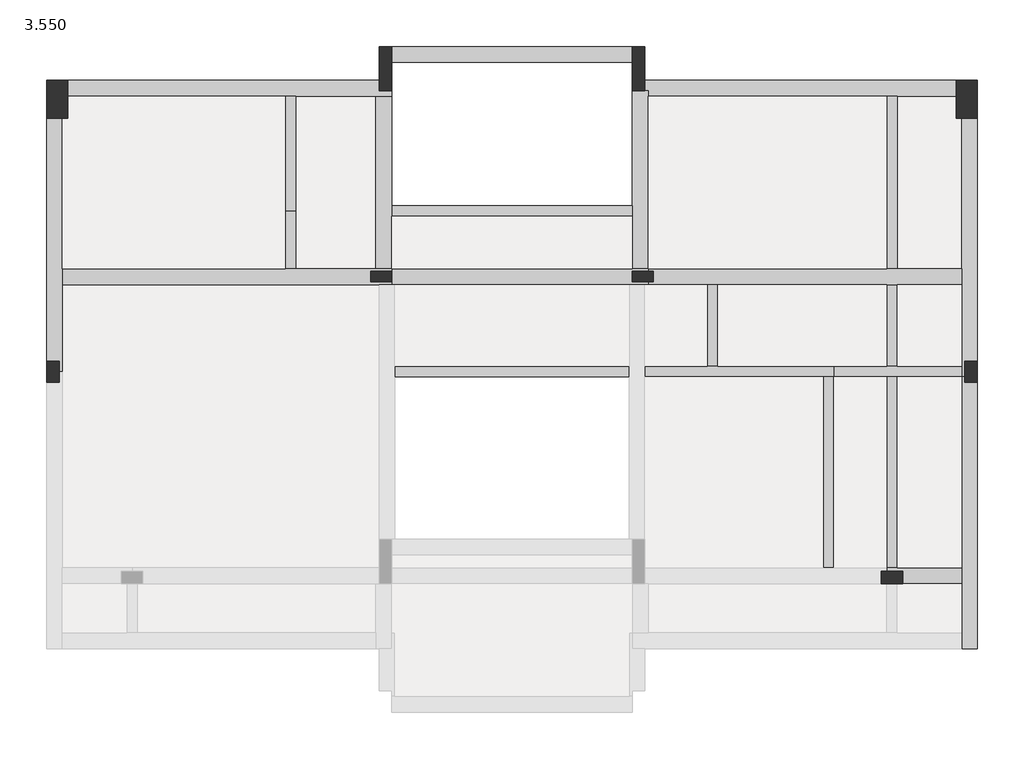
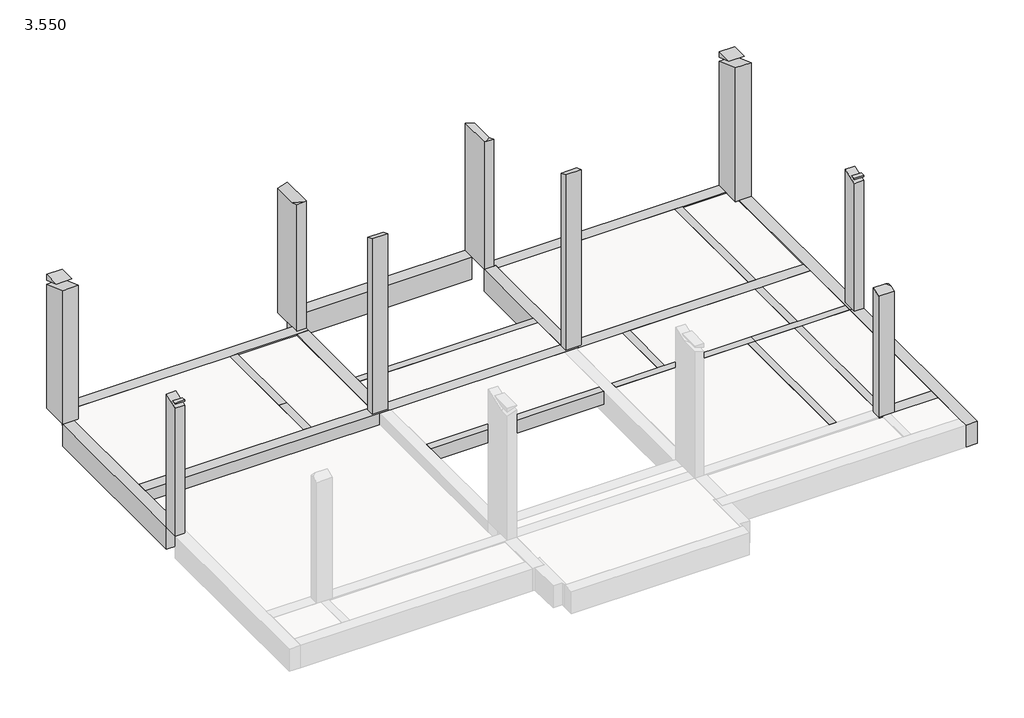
# One storey, part 2 of 2: 23 beams, 9 columns.
"""IFC4 building model written with IfcOpenShell, lengths in millimetres."""

import ifcopenshell
import ifcopenshell.guid

model = None  # the IFC model being written
_history = None  # IfcOwnerHistory: only IFC2X3 demands one
_inside = {}  # id of a spatial element -> (the spatial element, [elements in it])
_under = {}  # id of a project, library or spatial element -> (it, [spatial elements below it])
_declared = {}  # id of a project -> (the project, [libraries it declares])
_typed = {}  # id of a type object -> (the type object, [elements of that type])
_made_of = {}  # id of a material, layer set ... -> (it, [elements and type objects made of it])


def new_model(schema):
    """Start an empty IFC model of exactly this schema.

    Asked for "IFC4X3", IfcOpenShell would pick the latest addendum, in which some entities
    have other attributes; the version numbers below select the first issue.
    IFC2X3 requires an IfcOwnerHistory on every rooted entity: one is made here for all.
    """
    global model, _history
    if schema == "IFC4X3":
        model = ifcopenshell.file(schema_version=(4, 3, 0, 0))
    else:
        model = ifcopenshell.file(schema=schema)
    _inside.clear()
    _under.clear()
    _declared.clear()
    _typed.clear()
    _made_of.clear()
    _history = None
    if model.schema == "IFC2X3":
        org = make("IfcOrganization", Name="unknown")
        user = make(
            "IfcPersonAndOrganization",
            ThePerson=make("IfcPerson", FamilyName="unknown"),
            TheOrganization=org,
        )
        app = make(
            "IfcApplication",
            ApplicationDeveloper=org,
            Version="unknown",
            ApplicationFullName="unknown",
            ApplicationIdentifier="unknown",
        )
        _history = make(
            "IfcOwnerHistory",
            OwningUser=user,
            OwningApplication=app,
            ChangeAction="ADDED",
            CreationDate=0,
        )
    return model


def make(cls, **values):
    """One entity of the class cls with the attributes given. An attribute that is None is left unset."""
    return model.create_entity(
        cls, **{name: value for name, value in values.items() if value is not None}
    )


def rooted(cls, **values):
    """An entity with a GlobalId (a new one), such as an element, a storey or a relation."""
    return make(cls, GlobalId=ifcopenshell.guid.new(), OwnerHistory=_history, **values)


def si_unit(unit_type, name, prefix=None):
    """IfcSIUnit, for example si_unit("LENGTHUNIT", "METRE", prefix="MILLI")."""
    return make("IfcSIUnit", UnitType=unit_type, Prefix=prefix, Name=name)


def assignment(units):
    """IfcUnitAssignment: the units of a project."""
    return None if units is None else make("IfcUnitAssignment", Units=units)


def point(xyz):
    """IfcCartesianPoint."""
    return None if xyz is None else make("IfcCartesianPoint", Coordinates=xyz)


def direction(xyz):
    """IfcDirection."""
    return None if xyz is None else make("IfcDirection", DirectionRatios=xyz)


def frame(location, z_axis=None, x_axis=None):
    """IfcAxis2Placement3D, a coordinate frame: its origin and axes. An axis left out is left unset."""
    return make(
        "IfcAxis2Placement3D",
        Location=point(location),
        Axis=direction(z_axis),
        RefDirection=direction(x_axis),
    )


def origin():
    """The frame at (0, 0, 0) with its axes left unset."""
    return frame((0.0, 0.0, 0.0))


def place(relative_to, where):
    """IfcLocalPlacement: puts the frame where relative to a parent placement (None: the world)."""
    return make(
        "IfcLocalPlacement", PlacementRelTo=relative_to, RelativePlacement=where
    )


def context(
    kind, dimensions, precision=None, world=None, true_north=None, identifier=None
):
    """IfcGeometricRepresentationContext, for example the 3D "Model" context."""
    return make(
        "IfcGeometricRepresentationContext",
        ContextIdentifier=identifier,
        ContextType=kind,
        CoordinateSpaceDimension=dimensions,
        Precision=precision,
        WorldCoordinateSystem=world,
        TrueNorth=true_north,
    )


def project(units=None, contexts=None):
    """IfcProject with its units and contexts."""
    return rooted(
        "IfcProject",
        Name="project",
        RepresentationContexts=contexts,
        UnitsInContext=assignment(units),
    )


def spatial(cls, under=None, at=None, **own):
    """A site, building, storey or space (cls), placed at a placement, below another one or the project."""
    s = rooted(cls, ObjectPlacement=at, **own)
    if under is not None:
        _under.setdefault(under.id(), (under, []))[1].append(s)
    return s


def polyline(points):
    """IfcPolyline through the points."""
    return make("IfcPolyline", Points=[point(p) for p in points])


def outline(outer, holes=None, kind="AREA"):
    """IfcArbitraryClosedProfileDef: a profile drawn as a closed curve; with holes, ...WithVoids."""
    if holes is None:
        return make("IfcArbitraryClosedProfileDef", ProfileType=kind, OuterCurve=outer)
    return make(
        "IfcArbitraryProfileDefWithVoids",
        ProfileType=kind,
        OuterCurve=outer,
        InnerCurves=holes,
    )


def extrude(swept, where, along, depth):
    """IfcExtrudedAreaSolid: the profile swept, set in the frame where, extruded along a direction by depth."""
    return make(
        "IfcExtrudedAreaSolid",
        SweptArea=swept,
        Position=where,
        ExtrudedDirection=direction(along),
        Depth=depth,
    )


def faces_of(points, faces, orient=None, outer=None):
    """IfcFace entities. A face is a list of loops; a loop is a list of indices into points, from 0.

    orient and outer hold one flag for each loop. By default every Orientation is true, the
    first loop of a face is its IfcFaceOuterBound and the others are IfcFaceBound.
    """
    made = []
    for i, loops in enumerate(faces):
        bounds = []
        for j, loop in enumerate(loops):
            is_outer = j == 0 if outer is None else outer[i][j]
            bounds.append(
                make(
                    "IfcFaceOuterBound" if is_outer else "IfcFaceBound",
                    Bound=make("IfcPolyLoop", Polygon=[points[k] for k in loop]),
                    Orientation=True if orient is None else orient[i][j],
                )
            )
        made.append(make("IfcFace", Bounds=bounds))
    return made


def faceted_brep(points, faces, orient=None, outer=None, voids=None):
    """IfcFacetedBrep: a solid bounded by flat faces; with voids (closed shells), ...WithVoids."""
    shared = [point(p) for p in points]
    hull = make("IfcClosedShell", CfsFaces=faces_of(shared, faces, orient, outer))
    if voids is None:
        return make("IfcFacetedBrep", Outer=hull)
    return make(
        "IfcFacetedBrepWithVoids",
        Outer=hull,
        Voids=[
            make(cls, CfsFaces=faces_of(shared, fs, o, b)) for cls, fs, o, b in voids
        ],
    )


def shape(context_of_items, identifier, shape_type, items):
    """IfcShapeRepresentation: the items that make up one representation, for example the "Body"."""
    return make(
        "IfcShapeRepresentation",
        ContextOfItems=context_of_items,
        RepresentationIdentifier=identifier,
        RepresentationType=shape_type,
        Items=items,
    )


def made_of(thing, what):
    """Note that an element or type object is made of a material, layer set ...; save() writes the relation."""
    if what is not None:
        _made_of.setdefault(what.id(), (what, []))[1].append(thing)
    return thing


def element(
    cls,
    number,
    at=None,
    inside=None,
    cuts=None,
    type_object=None,
    material=None,
    context=None,
    identifier="Body",
    shape_type=None,
    held_by="IfcProductDefinitionShape",
    body=None,
    shapes=None,
    **own,
):
    """One element of the class cls, such as IfcWall. Its Tag is "e" and its number.

    at: its placement. inside: the storey or other place that contains it. cuts: it is an
    opening in that element (IfcRelVoidsElement). A single representation is given by context,
    identifier, shape_type and body (its items); several are given by shapes. held_by: the class
    of the entity that holds the representations. save() writes the other relations.
    """
    e = rooted(cls, Tag="e%d" % number, ObjectPlacement=at, **own)
    if body is not None:
        shapes = [shape(context, identifier, shape_type, body)]
    if shapes is not None:
        e.Representation = make(held_by, Representations=shapes)
    if inside is not None:
        _inside.setdefault(inside.id(), (inside, []))[1].append(e)
    if cuts is not None:
        rooted(
            "IfcRelVoidsElement", RelatingBuildingElement=cuts, RelatedOpeningElement=e
        )
    if type_object is not None:
        _typed.setdefault(type_object.id(), (type_object, []))[1].append(e)
    return made_of(e, material)


def aggregate(whole, parts):
    """IfcRelAggregates: a whole, such as a stair, and the parts it consists of."""
    return rooted("IfcRelAggregates", RelatingObject=whole, RelatedObjects=parts)


def save(model, path):
    """Write the relations noted so far, then the file.

    IfcRelAggregates (storeys below a building ...), IfcRelContainedInSpatialStructure (elements
    in a storey), IfcRelDefinesByType, IfcRelAssociatesMaterial and IfcRelDeclares: one each for
    every whole, place, type object, material and project.
    """
    for whole, parts in _under.values():
        aggregate(whole, parts)
    for where, things in _inside.values():
        rooted(
            "IfcRelContainedInSpatialStructure",
            RelatedElements=things,
            RelatingStructure=where,
        )
    for kind, things in _typed.values():
        rooted("IfcRelDefinesByType", RelatedObjects=things, RelatingType=kind)
    for what, things in _made_of.values():
        rooted("IfcRelAssociatesMaterial", RelatedObjects=things, RelatingMaterial=what)
    for by, libraries in _declared.values():
        rooted("IfcRelDeclares", RelatingContext=by, RelatedDefinitions=libraries)
    model.write(path)


model = new_model("IFC4")

# Units and contexts
model_context = context("Model", 3, world=origin())
ifc_project = project(units=[si_unit("LENGTHUNIT", "METRE", prefix="MILLI")], contexts=[model_context])

# Site, building, storey
site = spatial("IfcSite", under=ifc_project)
building = spatial("IfcBuilding", under=site)
storey = spatial("IfcBuildingStorey", under=building, Name="3.550", Elevation=3550.0)

# Beams
placement = place(None, origin())
element("IfcBeam", 1, ObjectType="混凝土 - 矩形梁 : 200 x 350mm", at=placement, inside=storey, context=model_context, shape_type="Brep", body=[
    faceted_brep([(-8918.804129, 3120.2421091, 3550.0), (-8718.804129, 3120.2421091, 3550.0), (-8718.804129, 5300.2421091, 3550.0), (-8918.804129, 5300.2421091, 3550.0), (-8918.804129, 3120.2421091, 3200.0), (-8918.804129, 5300.2421091, 3450.0), (-8918.804129, 5300.2421091, 3200.0), (-8718.804129, 3120.2421091, 3200.0), (-8718.804129, 5300.2421091, 3200.0), (-8718.804129, 5300.2421091, 3420.0), (-8718.804129, 5300.2421091, 3520.0)], [[[0, 1, 2, 3]], [[4, 0, 3, 5, 6]], [[7, 4, 6, 8]], [[1, 7, 8, 9, 10, 2]], [[3, 2, 10, 9, 8, 6, 5]], [[1, 0, 4, 7]]]),
])
element("IfcBeam", 2, ObjectType="混凝土 - 矩形梁 : 200 x 350mm", at=placement, inside=storey, context=model_context, shape_type="Brep", body=[
    faceted_brep([(-6898.804129, 3220.2421091, 3550.0), (-6898.804129, 3020.2421091, 3550.0), (-2338.804129, 3020.2421091, 3550.0), (-2338.804129, 3220.2421091, 3550.0), (-6898.804129, 3020.2421091, 3450.0), (-6898.804129, 3020.2421091, 3200.0), (-2338.804129, 3020.2421091, 3200.0), (-2338.804129, 3020.2421091, 3450.0), (-6898.804129, 3220.2421091, 3200.0), (-2338.804129, 3220.2421091, 3200.0)], [[[0, 1, 2, 3]], [[1, 4, 5, 6, 7, 2]], [[5, 8, 9, 6]], [[8, 0, 3, 9]], [[1, 0, 8, 5, 4]], [[3, 2, 7, 6, 9]]]),
])
element("IfcBeam", 3, ObjectType="混凝土 - 矩形梁 : 200 x 350mm", at=placement, inside=storey, context=model_context, shape_type="Brep", body=[
    faceted_brep([(-8718.804129, 3120.2421091, 3550.0), (-8918.804129, 3120.2421091, 3550.0), (-8918.804129, 2030.2421091, 3550.0), (-8718.804129, 2030.2421091, 3550.0), (-8918.804129, 3120.2421091, 3200.0), (-8918.804129, 2030.2421091, 3200.0), (-8918.804129, 2030.2421091, 3450.0), (-8718.804129, 3120.2421091, 3200.0), (-8718.804129, 2030.2421091, 3200.0), (-8718.804129, 2030.2421091, 3520.0), (-8718.804129, 2030.2421091, 3420.0)], [[[0, 1, 2, 3]], [[1, 4, 5, 6, 2]], [[4, 7, 8, 5]], [[7, 0, 3, 9, 10, 8]], [[3, 2, 6, 5, 8, 10, 9]], [[0, 7, 4, 1]]]),
])
element("IfcBeam", 4, ObjectType="混凝土 - 矩形梁 : 200 x 350mm", at=placement, inside=storey, context=model_context, shape_type="Brep", body=[
    faceted_brep([(1481.195871, -19.7578909, 3550.0), (1481.195871, 180.2421091, 3550.0), (-718.804129, 180.2421091, 3550.0), (-918.804129, 180.2421091, 3550.0), (-2098.804129, 180.2421091, 3550.0), (-2098.804129, -19.7578909, 3550.0), (1281.195871, -19.7578909, 3550.0), (1481.195871, -19.7578909, 3200.0), (-2098.804129, -19.7578909, 3450.0), (-2098.804129, -19.7578909, 3200.0), (1281.195871, -19.7578909, 3200.0), (1481.195871, 180.2421091, 3200.0), (-2098.804129, 180.2421091, 3200.0), (-918.804129, 180.2421091, 3200.0), (-718.804129, 180.2421091, 3200.0), (-2098.804129, 180.2421091, 3450.0)], [[[0, 1, 2, 3, 4, 5, 6]], [[7, 0, 6, 5, 8, 9, 10]], [[11, 7, 10, 9, 12, 13, 14]], [[1, 11, 14, 13, 12, 15, 4, 3, 2]], [[5, 4, 15, 12, 9, 8]], [[1, 0, 7, 11]]]),
])
element("IfcBeam", 5, ObjectType="混凝土 - 矩形梁 : 200 x 350mm", at=placement, inside=storey, context=model_context, shape_type="Brep", body=[
    faceted_brep([(1481.195871, 180.2421091, 3550.0), (1481.195871, -19.7578909, 3550.0), (2481.195871, -19.7578909, 3550.0), (2681.195871, -19.7578909, 3550.0), (3901.195871, -19.7578909, 3550.0), (3901.195871, 180.2421091, 3550.0), (2681.195871, 180.2421091, 3550.0), (2481.195871, 180.2421091, 3550.0), (1481.195871, -19.7578909, 3450.0), (1481.195871, -19.7578909, 3200.0), (2481.195871, -19.7578909, 3200.0), (2681.195871, -19.7578909, 3200.0), (3901.195871, -19.7578909, 3200.0), (3901.195871, -19.7578909, 3450.0), (1481.195871, 180.2421091, 3200.0), (2481.195871, 180.2421091, 3200.0), (2681.195871, 180.2421091, 3200.0), (3901.195871, 180.2421091, 3200.0), (3901.195871, 180.2421091, 3450.0)], [[[0, 1, 2, 3, 4, 5, 6, 7]], [[1, 8, 9, 10, 11, 12, 13, 4, 3, 2]], [[9, 14, 15, 16, 17, 12, 11, 10]], [[14, 0, 7, 6, 5, 18, 17, 16, 15]], [[5, 4, 13, 12, 17, 18]], [[1, 0, 14, 9, 8]]]),
])
element("IfcBeam", 6, ObjectType="混凝土 - 矩形梁 : 200 x 350mm", at=placement, inside=storey, context=model_context, shape_type="Brep", body=[
    faceted_brep([(1481.195871, -19.7578909, 3550.0), (1281.195871, -19.7578909, 3550.0), (1281.195871, -3639.7578909, 3550.0), (1481.195871, -3639.7578909, 3550.0), (1281.195871, -19.7578909, 3450.0), (1281.195871, -19.7578909, 3200.0), (1281.195871, -3639.7578909, 3200.0), (1281.195871, -3639.7578909, 3450.0), (1481.195871, -19.7578909, 3200.0), (1481.195871, -3639.7578909, 3200.0), (1481.195871, -19.7578909, 3450.0), (1481.195871, -3639.7578909, 3450.0)], [[[0, 1, 2, 3]], [[1, 4, 5, 6, 7, 2]], [[5, 8, 9, 6]], [[8, 10, 0, 3, 11, 9]], [[1, 0, 10, 8, 5, 4]], [[3, 2, 7, 6, 9, 11]]]),
])
element("IfcBeam", 7, ObjectType="混凝土 - 矩形梁 : 200 x 350mm", at=placement, inside=storey, context=model_context, shape_type="Brep", body=[
    faceted_brep([(2481.195871, -3639.7578909, 3550.0), (2681.195871, -3639.7578909, 3550.0), (2681.195871, -19.7578909, 3550.0), (2481.195871, -19.7578909, 3550.0), (2681.195871, -3639.7578909, 3450.0), (2681.195871, -3639.7578909, 3200.0), (2681.195871, -19.7578909, 3200.0), (2681.195871, -19.7578909, 3450.0), (2481.195871, -3639.7578909, 3200.0), (2481.195871, -19.7578909, 3200.0), (2481.195871, -3639.7578909, 3450.0), (2481.195871, -19.7578909, 3450.0)], [[[0, 1, 2, 3]], [[1, 4, 5, 6, 7, 2]], [[5, 8, 9, 6]], [[8, 10, 0, 3, 11, 9]], [[1, 0, 10, 8, 5, 4]], [[3, 2, 7, 6, 9, 11]]]),
])
element("IfcBeam", 8, ObjectType="混凝土 - 矩形梁 : 200 x 350mm", at=placement, inside=storey, context=model_context, shape_type="Brep", body=[
    faceted_brep([(2681.195871, 1730.2421091, 3550.0), (2481.195871, 1730.2421091, 3550.0), (2481.195871, 180.2421091, 3550.0), (2681.195871, 180.2421091, 3550.0), (2681.195871, 1730.2421091, 3200.0), (2681.195871, 1730.2421091, 3450.0), (2681.195871, 180.2421091, 3450.0), (2681.195871, 180.2421091, 3200.0), (2481.195871, 1730.2421091, 3200.0), (2481.195871, 180.2421091, 3200.0), (2481.195871, 1730.2421091, 3450.0), (2481.195871, 180.2421091, 3450.0)], [[[0, 1, 2, 3]], [[4, 5, 0, 3, 6, 7]], [[8, 4, 7, 9]], [[1, 10, 8, 9, 11, 2]], [[1, 0, 5, 4, 8, 10]], [[3, 2, 11, 9, 7, 6]]]),
])
element("IfcBeam", 9, ObjectType="混凝土 - 矩形梁 : 200 x 350mm", at=placement, inside=storey, context=model_context, shape_type="Brep", body=[
    faceted_brep([(2681.195871, 5300.2421091, 3550.0), (2481.195871, 5300.2421091, 3550.0), (2481.195871, 2030.2421091, 3550.0), (2681.195871, 2030.2421091, 3550.0), (2681.195871, 5300.2421091, 3200.0), (2681.195871, 5300.2421091, 3420.0), (2681.195871, 5300.2421091, 3520.0), (2681.195871, 2030.2421091, 3520.0), (2681.195871, 2030.2421091, 3420.0), (2681.195871, 2030.2421091, 3200.0), (2481.195871, 5300.2421091, 3200.0), (2481.195871, 2030.2421091, 3200.0), (2481.195871, 5300.2421091, 3450.0), (2481.195871, 2030.2421091, 3450.0)], [[[0, 1, 2, 3]], [[4, 5, 6, 0, 3, 7, 8, 9]], [[10, 4, 9, 11]], [[1, 12, 10, 11, 13, 2]], [[1, 0, 6, 5, 4, 10, 12]], [[3, 2, 13, 11, 9, 8, 7]]]),
])
element("IfcBeam", 10, ObjectType="混凝土 - 矩形梁 : 200 x 350mm", at=placement, inside=storey, context=model_context, shape_type="Brep", body=[
    faceted_brep([(-718.804129, 1730.2421091, 3550.0), (-918.804129, 1730.2421091, 3550.0), (-918.804129, 180.2421091, 3550.0), (-718.804129, 180.2421091, 3550.0), (-718.804129, 1730.2421091, 3200.0), (-718.804129, 1730.2421091, 3450.0), (-718.804129, 180.2421091, 3450.0), (-718.804129, 180.2421091, 3200.0), (-918.804129, 1730.2421091, 3200.0), (-918.804129, 180.2421091, 3200.0), (-918.804129, 1730.2421091, 3450.0), (-918.804129, 180.2421091, 3450.0)], [[[0, 1, 2, 3]], [[4, 5, 0, 3, 6, 7]], [[8, 4, 7, 9]], [[1, 10, 8, 9, 11, 2]], [[1, 0, 5, 4, 8, 10]], [[3, 2, 11, 9, 7, 6]]]),
])
element("IfcBeam", 11, ObjectType="混凝土 - 矩形梁 : 200 x 350mm", at=placement, inside=storey, context=model_context, shape_type="Brep", body=[
    faceted_brep([(-6838.804129, 180.2421091, 3550.0), (-6838.804129, -19.7578909, 3550.0), (-2398.804129, -19.7578909, 3550.0), (-2398.804129, 180.2421091, 3550.0), (-6838.804129, -19.7578909, 3200.0), (-2398.804129, -19.7578909, 3200.0), (-6838.804129, 180.2421091, 3200.0), (-2398.804129, 180.2421091, 3200.0), (-6838.804129, 180.2421091, 3450.0), (-2398.804129, 180.2421091, 3450.0)], [[[0, 1, 2, 3]], [[1, 4, 5, 2]], [[4, 6, 7, 5]], [[6, 8, 0, 3, 9, 7]], [[1, 0, 8, 6, 4]], [[3, 2, 5, 7, 9]]]),
])
element("IfcBeam", 12, ObjectType="混凝土 - 矩形梁 : 300 x 600mm", at=placement, inside=storey, context=model_context, shape_type="Brep", body=[
    faceted_brep([(-13038.804129, 5600.2421091, 3550.0), (-13038.804129, 5600.2421091, 2950.0), (-13038.804129, 5300.2421091, 2950.0), (-13038.804129, 5300.2421091, 3450.0), (-13038.804129, 5300.2421091, 3550.0), (-8918.804129, 5300.2421091, 3550.0), (-8718.804129, 5300.2421091, 3550.0), (-7198.804129, 5300.2421091, 3550.0), (-6898.804129, 5300.2421091, 3550.0), (-6898.804129, 5400.2421091, 3550.0), (-7138.804129, 5400.2421091, 3550.0), (-7138.804129, 5600.2421091, 3550.0), (-7198.804129, 5300.2421091, 2950.0), (-6898.804129, 5300.2421091, 2950.0), (-7138.804129, 5600.2421091, 2950.0), (-7138.804129, 5400.2421091, 2950.0), (-6898.804129, 5400.2421091, 2950.0)], [[[0, 1, 2, 3, 4]], [[0, 4, 5, 6, 7, 8, 9, 10, 11]], [[4, 3, 2, 12, 13, 8, 7, 6, 5]], [[2, 1, 14, 15, 16, 13, 12]], [[1, 0, 11, 14]], [[8, 13, 16, 9]], [[15, 10, 9, 16]], [[10, 15, 14, 11]]]),
])
element("IfcBeam", 13, ObjectType="混凝土 - 矩形梁 : 300 x 600mm", at=placement, inside=storey, context=model_context, shape_type="SweptSolid", body=[
    extrude(outline(polyline([(-2338.804129, 6240.2421091), (-2338.804129, 5940.2421091), (-6898.804129, 5940.2421091), (-6898.804129, 6240.2421091), (-2338.804129, 6240.2421091)])), frame((0.0, 0.0, 2950.0), z_axis=(0.0, 0.0, 1.0), x_axis=(1.0, 0.0, 0.0)), (0.0, 0.0, 1.0), 600.0),
])
element("IfcBeam", 14, ObjectType="混凝土 - 矩形梁 : 300 x 600mm", at=placement, inside=storey, context=model_context, shape_type="Brep", body=[
    faceted_brep([(3801.195871, 5600.2421091, 3550.0), (3801.195871, 5300.2421091, 3550.0), (3801.195871, 5300.2421091, 3520.0), (3801.195871, 5300.2421091, 3420.0), (3801.195871, 5300.2421091, 2950.0), (3801.195871, 5600.2421091, 2950.0), (-2098.804129, 5600.2421091, 3550.0), (-2098.804129, 5400.2421091, 3550.0), (-2038.804129, 5400.2421091, 3550.0), (-2038.804129, 5300.2421091, 3550.0), (2481.195871, 5300.2421091, 3550.0), (2681.195871, 5300.2421091, 3550.0), (-2038.804129, 5300.2421091, 3450.0), (-2038.804129, 5300.2421091, 2950.0), (-2038.804129, 5400.2421091, 2950.0), (-2098.804129, 5400.2421091, 2950.0), (-2098.804129, 5600.2421091, 2950.0)], [[[0, 1, 2, 3, 4, 5]], [[1, 0, 6, 7, 8, 9, 10, 11]], [[4, 3, 2, 1, 11, 10, 9, 12, 13]], [[5, 4, 13, 14, 15, 16]], [[0, 5, 16, 6]], [[8, 14, 13, 12, 9]], [[14, 8, 7, 15]], [[6, 16, 15, 7]]]),
])
element("IfcBeam", 15, ObjectType="混凝土 - 矩形梁 : 300 x 600mm", at=placement, inside=storey, context=model_context, shape_type="Brep", body=[
    faceted_brep([(4201.195871, 4880.2421091, 3550.0), (3901.195871, 4880.2421091, 3550.0), (3901.195871, 2030.2421091, 3550.0), (3901.195871, 1730.2421091, 3550.0), (3901.195871, 180.2421091, 3550.0), (3901.195871, -19.7578909, 3550.0), (3961.195871, -19.7578909, 3550.0), (3961.195871, 280.2421091, 3550.0), (4201.195871, 280.2421091, 3550.0), (3901.195871, 4880.2421091, 3520.0), (3901.195871, 4880.2421091, 3420.0), (3901.195871, 4880.2421091, 2950.0), (3901.195871, 2030.2421091, 2950.0), (3901.195871, 1730.2421091, 2950.0), (3901.195871, -19.7578909, 2950.0), (3901.195871, -19.7578909, 3200.0), (4201.195871, 4880.2421091, 2950.0), (4201.195871, 280.2421091, 2950.0), (3961.195871, 280.2421091, 2950.0), (3961.195871, -19.7578909, 2950.0)], [[[0, 1, 2, 3, 4, 5, 6, 7, 8]], [[1, 9, 10, 11, 12, 13, 14, 15, 5, 4, 3, 2]], [[11, 16, 17, 18, 19, 14, 13, 12]], [[16, 0, 8, 17]], [[0, 16, 11, 10, 9, 1]], [[5, 15, 14, 19, 6]], [[18, 7, 6, 19]], [[7, 18, 17, 8]]]),
])
element("IfcBeam", 16, ObjectType="混凝土 - 矩形梁 : 300 x 600mm", at=placement, inside=storey, context=model_context, shape_type="Brep", body=[
    faceted_brep([(3901.195871, -5169.7578909, 3550.0), (4201.195871, -5169.7578909, 3550.0), (4201.195871, -119.7578909, 3550.0), (3961.195871, -119.7578909, 3550.0), (3961.195871, -19.7578909, 3550.0), (3901.195871, -19.7578909, 3550.0), (3901.195871, -3639.7578909, 3550.0), (3901.195871, -3939.7578909, 3550.0), (3901.195871, -4869.7578909, 3550.0), (3901.195871, -5169.7578909, 2950.0), (3901.195871, -19.7578909, 3450.0), (3901.195871, -19.7578909, 2950.0), (3901.195871, -3639.7578909, 2950.0), (3901.195871, -3939.7578909, 2950.0), (3901.195871, -4869.7578909, 2950.0), (4201.195871, -5169.7578909, 2950.0), (3961.195871, -19.7578909, 2950.0), (3961.195871, -119.7578909, 2950.0), (4201.195871, -119.7578909, 2950.0)], [[[0, 1, 2, 3, 4, 5, 6, 7, 8]], [[9, 0, 8, 7, 6, 5, 10, 11, 12, 13, 14]], [[15, 9, 14, 13, 12, 11, 16, 17, 18]], [[1, 15, 18, 2]], [[1, 0, 9, 15]], [[17, 3, 2, 18]], [[3, 17, 16, 4]], [[5, 4, 16, 11, 10]]]),
])
element("IfcBeam", 17, ObjectType="混凝土 - 矩形梁 : 300 x 600mm", at=placement, inside=storey, context=model_context, shape_type="Brep", body=[
    faceted_brep([(3901.195871, -3939.7578909, 3550.0), (3901.195871, -3639.7578909, 3550.0), (2681.195871, -3639.7578909, 3550.0), (2481.195871, -3639.7578909, 3550.0), (2481.195871, -3699.7578909, 3550.0), (2781.195871, -3699.7578909, 3550.0), (2781.195871, -3939.7578909, 3550.0), (3901.195871, -3639.7578909, 3450.0), (3901.195871, -3639.7578909, 2950.0), (2481.195871, -3639.7578909, 2950.0), (2481.195871, -3639.7578909, 3200.0), (3901.195871, -3939.7578909, 2950.0), (2781.195871, -3939.7578909, 2950.0), (2781.195871, -3699.7578909, 2950.0), (2481.195871, -3699.7578909, 2950.0), (3901.195871, -3939.7578909, 3450.0)], [[[0, 1, 2, 3, 4, 5, 6]], [[1, 7, 8, 9, 10, 3, 2]], [[8, 11, 12, 13, 14, 9]], [[11, 15, 0, 6, 12]], [[1, 0, 15, 11, 8, 7]], [[13, 5, 4, 14]], [[5, 13, 12, 6]], [[3, 10, 9, 14, 4]]]),
])
element("IfcBeam", 18, ObjectType="混凝土 - 矩形梁 : 300 x 600mm", at=placement, inside=storey, context=model_context, shape_type="Brep", body=[
    faceted_brep([(-13438.804129, 4880.2421091, 3550.0), (-13138.804129, 4880.2421091, 3550.0), (-13138.804129, 4880.2421091, 3450.0), (-13138.804129, 4880.2421091, 2950.0), (-13438.804129, 4880.2421091, 2950.0), (-13438.804129, 280.2421091, 3550.0), (-13198.804129, 280.2421091, 3550.0), (-13198.804129, 80.2421091, 3550.0), (-13138.804129, 80.2421091, 3550.0), (-13138.804129, 1730.2421091, 3550.0), (-13138.804129, 2030.2421091, 3550.0), (-13138.804129, 80.2421091, 2950.0), (-13138.804129, 1730.2421091, 2950.0), (-13138.804129, 2030.2421091, 2950.0), (-13198.804129, 80.2421091, 2950.0), (-13198.804129, 280.2421091, 2950.0), (-13438.804129, 280.2421091, 2950.0)], [[[0, 1, 2, 3, 4]], [[1, 0, 5, 6, 7, 8, 9, 10]], [[3, 2, 1, 10, 9, 8, 11, 12, 13]], [[4, 3, 13, 12, 11, 14, 15, 16]], [[0, 4, 16, 5]], [[6, 15, 14, 7]], [[15, 6, 5, 16]], [[11, 8, 7, 14]]]),
])
element("IfcBeam", 19, ObjectType="混凝土 - 矩形梁 : 300 x 600mm", at=placement, inside=storey, context=model_context, shape_type="Brep", body=[
    faceted_brep([(-13138.804129, 2030.2421091, 3550.0), (-13138.804129, 1730.2421091, 3550.0), (-7138.804129, 1730.2421091, 3550.0), (-6898.804129, 1730.2421091, 3550.0), (-6898.804129, 1780.2421091, 3550.0), (-7298.804129, 1780.2421091, 3550.0), (-7298.804129, 1980.2421091, 3550.0), (-6898.804129, 1980.2421091, 3550.0), (-6898.804129, 2030.2421091, 3550.0), (-7198.804129, 2030.2421091, 3550.0), (-8718.804129, 2030.2421091, 3550.0), (-8918.804129, 2030.2421091, 3550.0), (-13138.804129, 2030.2421091, 2950.0), (-13138.804129, 2030.2421091, 3450.0), (-6898.804129, 2030.2421091, 2950.0), (-7198.804129, 2030.2421091, 2950.0), (-13138.804129, 1730.2421091, 2950.0), (-6898.804129, 1980.2421091, 2950.0), (-7298.804129, 1980.2421091, 2950.0), (-7298.804129, 1780.2421091, 2950.0), (-6898.804129, 1780.2421091, 2950.0), (-6898.804129, 1730.2421091, 2950.0), (-7138.804129, 1730.2421091, 2950.0), (-13138.804129, 1730.2421091, 3250.0), (-13138.804129, 1730.2421091, 3090.0)], [[[0, 1, 2, 3, 4, 5, 6, 7, 8, 9, 10, 11]], [[12, 13, 0, 11, 10, 9, 8, 14, 15]], [[16, 12, 15, 14, 17, 18, 19, 20, 21, 22]], [[1, 23, 24, 16, 22, 21, 3, 2]], [[1, 0, 13, 12, 16, 24, 23]], [[14, 8, 7, 17]], [[6, 18, 17, 7]], [[19, 5, 4, 20]], [[5, 19, 18, 6]], [[3, 21, 20, 4]]]),
])
element("IfcBeam", 20, ObjectType="混凝土 - 矩形梁 : 300 x 600mm", at=placement, inside=storey, context=model_context, shape_type="Brep", body=[
    faceted_brep([(-2038.804129, 2030.2421091, 3550.0), (-2338.804129, 2030.2421091, 3550.0), (-6898.804129, 2030.2421091, 3550.0), (-6898.804129, 1980.2421091, 3550.0), (-6898.804129, 1780.2421091, 3550.0), (-6898.804129, 1730.2421091, 3550.0), (-6838.804129, 1730.2421091, 3550.0), (-2398.804129, 1730.2421091, 3550.0), (-2098.804129, 1730.2421091, 3550.0), (-2038.804129, 1730.2421091, 3550.0), (-2038.804129, 1780.2421091, 3550.0), (-2338.804129, 1780.2421091, 3550.0), (-2338.804129, 1980.2421091, 3550.0), (-2038.804129, 1980.2421091, 3550.0), (-2038.804129, 1730.2421091, 2950.0), (-6898.804129, 1730.2421091, 2950.0), (-6838.804129, 1730.2421091, 2950.0), (-2398.804129, 1730.2421091, 2950.0), (-2098.804129, 1730.2421091, 2950.0), (-6898.804129, 1780.2421091, 2950.0), (-6898.804129, 1980.2421091, 2950.0), (-6898.804129, 2030.2421091, 2950.0), (-2338.804129, 2030.2421091, 2950.0), (-2038.804129, 2030.2421091, 2950.0), (-2038.804129, 1980.2421091, 2950.0), (-2338.804129, 1980.2421091, 2950.0), (-2338.804129, 1780.2421091, 2950.0), (-2038.804129, 1780.2421091, 2950.0), (-6898.804129, 2030.2421091, 3450.0)], [[[0, 1, 2, 3, 4, 5, 6, 7, 8, 9, 10, 11, 12, 13]], [[14, 9, 8, 7, 6, 5, 15, 16, 17, 18]], [[14, 18, 17, 16, 15, 19, 20, 21, 22, 23, 24, 25, 26, 27]], [[0, 23, 22, 21, 28, 2, 1]], [[23, 0, 13, 24]], [[5, 4, 3, 2, 28, 21, 20, 19, 15]], [[12, 25, 24, 13]], [[26, 11, 10, 27]], [[11, 26, 25, 12]], [[9, 14, 27, 10]]]),
])
element("IfcBeam", 21, ObjectType="混凝土 - 矩形梁 : 300 x 600mm", at=placement, inside=storey, context=model_context, shape_type="Brep", body=[
    faceted_brep([(3901.195871, 1730.2421091, 3550.0), (3901.195871, 2030.2421091, 3550.0), (2681.195871, 2030.2421091, 3550.0), (2481.195871, 2030.2421091, 3550.0), (-2038.804129, 2030.2421091, 3550.0), (-2038.804129, 1980.2421091, 3550.0), (-1938.804129, 1980.2421091, 3550.0), (-1938.804129, 1780.2421091, 3550.0), (-2038.804129, 1780.2421091, 3550.0), (-2038.804129, 1730.2421091, 3550.0), (-918.804129, 1730.2421091, 3550.0), (-718.804129, 1730.2421091, 3550.0), (2481.195871, 1730.2421091, 3550.0), (2681.195871, 1730.2421091, 3550.0), (3901.195871, 1730.2421091, 2950.0), (3901.195871, 1730.2421091, 3450.0), (-2038.804129, 1730.2421091, 2950.0), (3901.195871, 2030.2421091, 2950.0), (-2038.804129, 1780.2421091, 2950.0), (-1938.804129, 1780.2421091, 2950.0), (-1938.804129, 1980.2421091, 2950.0), (-2038.804129, 1980.2421091, 2950.0), (-2038.804129, 2030.2421091, 2950.0), (3901.195871, 2030.2421091, 3520.0), (3901.195871, 2030.2421091, 3420.0), (-2038.804129, 2030.2421091, 3450.0)], [[[0, 1, 2, 3, 4, 5, 6, 7, 8, 9, 10, 11, 12, 13]], [[14, 15, 0, 13, 12, 11, 10, 9, 16]], [[17, 14, 16, 18, 19, 20, 21, 22]], [[1, 23, 24, 17, 22, 25, 4, 3, 2]], [[1, 0, 15, 14, 17, 24, 23]], [[16, 9, 8, 18]], [[20, 6, 5, 21]], [[6, 20, 19, 7]], [[7, 19, 18, 8]], [[4, 25, 22, 21, 5]]]),
])
element("IfcBeam", 22, ObjectType="混凝土 - 矩形梁 : 300 x 600mm", at=placement, inside=storey, context=model_context, shape_type="Brep", body=[
    faceted_brep([(-6898.804129, 5300.2421091, 3550.0), (-7198.804129, 5300.2421091, 3550.0), (-7198.804129, 2030.2421091, 3550.0), (-6898.804129, 2030.2421091, 3550.0), (-6898.804129, 3020.2421091, 3550.0), (-6898.804129, 3220.2421091, 3550.0), (-7198.804129, 5300.2421091, 3520.0), (-7198.804129, 5300.2421091, 3420.0), (-7198.804129, 5300.2421091, 2950.0), (-7198.804129, 2030.2421091, 2950.0), (-7198.804129, 2030.2421091, 3420.0), (-7198.804129, 2030.2421091, 3520.0), (-6898.804129, 5300.2421091, 2950.0), (-6898.804129, 2030.2421091, 2950.0), (-6898.804129, 2030.2421091, 3450.0)], [[[0, 1, 2, 3, 4, 5]], [[1, 6, 7, 8, 9, 10, 11, 2]], [[8, 12, 13, 9]], [[12, 0, 5, 4, 3, 14, 13]], [[1, 0, 12, 8, 7, 6]], [[3, 2, 11, 10, 9, 13, 14]]]),
])
element("IfcBeam", 23, ObjectType="混凝土 - 矩形梁 : 300 x 600mm", at=placement, inside=storey, context=model_context, shape_type="Brep", body=[
    faceted_brep([(-2338.804129, 5400.2421091, 2950.0), (-2338.804129, 5400.2421091, 3550.0), (-2098.804129, 5400.2421091, 3550.0), (-2038.804129, 5400.2421091, 3550.0), (-2038.804129, 5400.2421091, 2950.0), (-2098.804129, 5400.2421091, 2950.0), (-2338.804129, 3220.2421091, 3550.0), (-2338.804129, 3020.2421091, 3550.0), (-2338.804129, 2030.2421091, 3550.0), (-2038.804129, 2030.2421091, 3550.0), (-2038.804129, 5300.2421091, 3550.0), (-2038.804129, 2030.2421091, 3450.0), (-2038.804129, 2030.2421091, 2950.0), (-2038.804129, 5300.2421091, 2950.0), (-2338.804129, 2030.2421091, 2950.0), (-2338.804129, 2030.2421091, 3450.0)], [[[0, 1, 2, 3, 4, 5]], [[3, 2, 1, 6, 7, 8, 9, 10]], [[4, 3, 10, 9, 11, 12, 13]], [[0, 5, 4, 13, 12, 14]], [[1, 0, 14, 15, 8, 7, 6]], [[9, 8, 15, 14, 12, 11]]]),
])

# Columns
element("IfcColumn", 24, ObjectType="混凝土 - 矩形 - 柱 : 200 x 400mm", at=placement, inside=storey, context=model_context, shape_type="SweptSolid", body=[
    extrude(outline(polyline([(1980.2421091, 3550.0), (1780.2421091, 3550.0), (1780.2421091, 8302.7484355), (1980.2421091, 8229.9543886), (1980.2421091, 3550.0)])), frame((-7298.804129, 0.0, 0.0), z_axis=(1.0, 0.0, 0.0), x_axis=(0.0, 1.0, 0.0)), (0.0, 0.0, 1.0), 400.0),
])
element("IfcColumn", 25, ObjectType="混凝土 - 矩形 - 柱 : 200 x 400mm", at=placement, inside=storey, context=model_context, shape_type="SweptSolid", body=[
    extrude(outline(polyline([(1980.2421091, 3550.0), (1780.2421091, 3550.0), (1780.2421091, 8302.7484355), (1980.2421091, 8229.9543886), (1980.2421091, 3550.0)])), frame((-2338.804129, 0.0, 0.0), z_axis=(1.0, 0.0, 0.0), x_axis=(0.0, 1.0, 0.0)), (0.0, 0.0, 1.0), 400.0),
])
element("IfcColumn", 26, ObjectType="混凝土 - 矩形 - 柱 : 240 x 400mm", at=placement, inside=storey, context=model_context, shape_type="SweptSolid", body=[
    extrude(outline(polyline([(280.2421091, 3550.0), (-119.7578909, 3550.0), (-119.7578909, 7014.2938062), (280.2421091, 7159.8818999), (280.2421091, 3550.0)])), frame((-13438.804129, 0.0, 0.0), z_axis=(1.0, 0.0, 0.0), x_axis=(0.0, 1.0, 0.0)), (0.0, 0.0, 1.0), 240.0),
    extrude(outline(polyline([(-119.7578909, 7120.7115834), (-119.7578909, 7159.8818999), (-12.1383309, 7159.8818999), (-119.7578909, 7120.7115834)])), frame((-13438.804129, 0.0, 0.0), z_axis=(1.0, 0.0, 0.0), x_axis=(0.0, 1.0, 0.0)), (0.0, 0.0, 1.0), 240.0),
])
element("IfcColumn", 27, ObjectType="混凝土 - 矩形 - 柱 : 240 x 400mm", at=placement, inside=storey, context=model_context, shape_type="SweptSolid", body=[
    extrude(outline(polyline([(280.2421091, 3550.0), (-119.7578909, 3550.0), (-119.7578909, 7014.2938062), (280.2421091, 7159.8818999), (280.2421091, 3550.0)])), frame((3961.195871, 0.0, 0.0), z_axis=(1.0, 0.0, 0.0), x_axis=(0.0, 1.0, 0.0)), (0.0, 0.0, 1.0), 240.0),
    extrude(outline(polyline([(-119.7578909, 7120.7115834), (-119.7578909, 7159.8818999), (-12.1383309, 7159.8818999), (-119.7578909, 7120.7115834)])), frame((3961.195871, 0.0, 0.0), z_axis=(1.0, 0.0, 0.0), x_axis=(0.0, 1.0, 0.0)), (0.0, 0.0, 1.0), 240.0),
])
element("IfcColumn", 28, ObjectType="混凝土 - 矩形 - 柱 : 240 x 400mm", at=placement, inside=storey, context=model_context, shape_type="Brep", body=[
    faceted_brep([(2381.195871, -3699.7578909, 3550.0), (2781.195871, -3699.7578909, 3550.0), (2781.195871, -3939.7578909, 3550.0), (2381.195871, -3939.7578909, 3550.0), (2381.195871, -3699.7578909, 6912.3821406), (2701.195871, -3699.7578909, 6912.3821406), (2781.195871, -3699.7578909, 6883.2645218), (2781.195871, -3779.7578909, 6883.2645218), (2781.195871, -3939.7578909, 6825.0292843), (2381.195871, -3939.7578909, 6825.0292843)], [[[0, 1, 2, 3]], [[1, 0, 4, 5, 6]], [[2, 1, 6, 7, 8]], [[3, 2, 8, 9]], [[0, 3, 9, 4]], [[7, 5, 4, 9, 8]], [[5, 7, 6]]]),
])
element("IfcColumn", 29, ObjectType="混凝土 - 矩形 - 柱 : 240 x 840mm", at=placement, inside=storey, context=model_context, shape_type="Brep", body=[
    faceted_brep([(-6898.804129, 6240.2421091, 3550.0), (-6898.804129, 5400.2421091, 3550.0), (-7138.804129, 5400.2421091, 3550.0), (-7138.804129, 6240.2421091, 3550.0), (-6898.804129, 6240.2421091, 6999.7349968), (-6898.804129, 5400.2421091, 6999.7349968), (-6938.804129, 5400.2421091, 6985.1761874), (-7138.804129, 5400.2421091, 6985.1761874), (-7138.804129, 5400.2421091, 6800.0), (-7138.804129, 5400.2421091, 6400.0), (-7138.804129, 5600.2421091, 6912.3821406), (-7138.804129, 6240.2421091, 6912.3821406)], [[[0, 1, 2, 3]], [[1, 0, 4, 5]], [[2, 1, 5, 6, 7, 8, 9]], [[3, 2, 9, 8, 7, 10, 11]], [[0, 3, 11, 4]], [[10, 6, 5, 4, 11]], [[6, 10, 7]]]),
])
element("IfcColumn", 30, ObjectType="混凝土 - 矩形 - 柱 : 240 x 840mm", at=placement, inside=storey, context=model_context, shape_type="Brep", body=[
    faceted_brep([(-2098.804129, 6240.2421091, 3550.0), (-2098.804129, 5400.2421091, 3550.0), (-2338.804129, 5400.2421091, 3550.0), (-2338.804129, 6240.2421091, 3550.0), (-2098.804129, 6240.2421091, 6912.3821406), (-2098.804129, 5600.2421091, 6912.3821406), (-2098.804129, 5400.2421091, 6985.1761874), (-2098.804129, 5400.2421091, 6800.0), (-2098.804129, 5400.2421091, 6400.0), (-2298.804129, 5400.2421091, 6985.1761874), (-2338.804129, 5400.2421091, 6999.7349968), (-2338.804129, 6240.2421091, 6999.7349968)], [[[0, 1, 2, 3]], [[1, 0, 4, 5, 6, 7, 8]], [[2, 1, 8, 7, 6, 9, 10]], [[3, 2, 10, 11]], [[0, 3, 11, 4]], [[5, 9, 6]], [[9, 5, 4, 11, 10]]]),
])
element("IfcColumn", 31, ObjectType="混凝土 - 矩形 - 柱 : 400 x 720mm", at=placement, inside=storey, context=model_context, shape_type="SweptSolid", body=[
    extrude(outline(polyline([(5600.2421091, 3550.0), (4880.2421091, 3550.0), (4880.2421091, 7174.4407092), (5600.2421091, 6912.3821406), (5600.2421091, 3550.0)])), frame((-13438.804129, 0.0, 0.0), z_axis=(1.0, 0.0, 0.0), x_axis=(0.0, 1.0, 0.0)), (0.0, 0.0, 1.0), 400.0),
    extrude(outline(polyline([(5600.2421091, 7174.4407092), (5600.2421091, 7018.7999178), (5172.6225491, 7174.4407092), (5600.2421091, 7174.4407092)])), frame((-13438.804129, 0.0, 0.0), z_axis=(1.0, 0.0, 0.0), x_axis=(0.0, 1.0, 0.0)), (0.0, 0.0, 1.0), 400.0),
])
element("IfcColumn", 32, ObjectType="混凝土 - 矩形 - 柱 : 400 x 720mm", at=placement, inside=storey, context=model_context, shape_type="Brep", body=[
    faceted_brep([(4201.195871, 5600.2421091, 3550.0), (4201.195871, 4880.2421091, 3550.0), (3801.195871, 4880.2421091, 3550.0), (3801.195871, 5600.2421091, 3550.0), (4201.195871, 4880.2421091, 7174.4407092), (3801.195871, 4880.2421091, 7174.4407092), (4201.195871, 5600.2421091, 6912.3821406), (3801.195871, 5600.2421091, 6912.3821406), (3801.195871, 5600.2421091, 6800.0), (3801.195871, 5600.2421091, 6400.0)], [[[0, 1, 2, 3]], [[2, 1, 4, 5]], [[4, 6, 7, 5]], [[1, 0, 6, 4]], [[3, 2, 5, 7, 8, 9]], [[0, 3, 9, 8, 7, 6]]]),
    faceted_brep([(4201.195871, 5600.2421091, 7018.7999178), (4201.195871, 5600.2421091, 7174.4407092), (4201.195871, 5172.6225491, 7174.4407092), (3801.195871, 5600.2421091, 7174.4407092), (3801.195871, 5600.2421091, 7018.7999178), (3801.195871, 5172.6225491, 7174.4407092)], [[[0, 1, 2]], [[3, 4, 5]], [[3, 1, 0, 4]], [[1, 3, 5, 2]], [[0, 2, 5, 4]]]),
])

save(model, "model.ifc")
